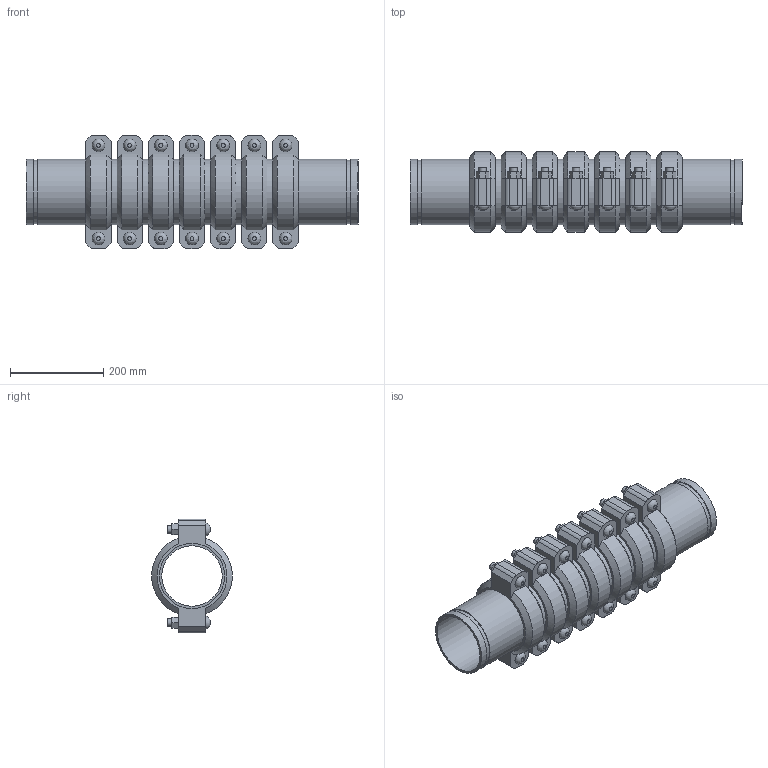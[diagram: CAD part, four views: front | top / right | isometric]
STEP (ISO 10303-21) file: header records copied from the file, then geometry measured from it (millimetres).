
FILE_DESCRIPTION(/* description */ ('VIC EXPANSION JOINT 7 COUPLINGS EXPANDED STYLE 155 (OGS)','CAx-IF Rec.Pracs.---Representation and Presentation of Product Manufacturing Information (PMI)---4.0---2014-10-13'),/* implementation_level */ '2;1');
FILE_NAME(/* name */ 'C:\Users\kkamble\AppData\Roaming\Autodesk\ApplicationPlugins\Victaulic.Temp\A179\Victaulic_IPS_Expansion Joint_Expanded_7 Couplings_Style 155 (OGS)_05.0 (139.7) (125).stp',/* time_stamp */ '2021-06-27T00:07:07+02:00',/* author */ ('kkamble'),/* organization */ ('Victaulic'),/* preprocessor_version */ 'ST-DEVELOPER v17.2',/* originating_system */ 'Autodesk Inventor 2019',/* authorisation */ '');
FILE_SCHEMA (('AP242_MANAGED_MODEL_BASED_3D_ENGINEERING_MIM_LF { 1 0 10303 442 1 1 4 }'));
Length unit declared in the file: inch
Products named in the file (4): 155-05.0 (139.7); Nipple-05.0 (139.7); Nipple-05.0 (139.7)_1; 075-05.0 (139.7)
Assembly tree (15 placements, depth 2):
  155-05.0 (139.7)
    Nipple-05.0 (139.7)  x2
    Nipple-05.0 (139.7)_1  x6
    075-05.0 (139.7)  x7
Bounding box: 711.2 x 172.14 x 243.59 mm (x, y, z)
Volume: 5806277.7 mm3; surface area: 1331953.8 mm2
Topology: 15 solids, 29 shells, 495 faces, 1171 edges, 822 vertices
Faces by surface type: plane 300, cylinder 153, cone 28, bspline 14
Full cylindrical faces by diameter (mm): 15.875 x28, 17.424 x14, 129.388 x8, 133.35 x7, 135.484 x16, 139.7 x38
Entity records: 2833 total; most frequent: CARTESIAN_POINT 499, DIRECTION 473, ORIENTED_EDGE 386, EDGE_CURVE 193, AXIS2_PLACEMENT_3D 190, VERTEX_POINT 138, EDGE_LOOP 107, LINE 93
